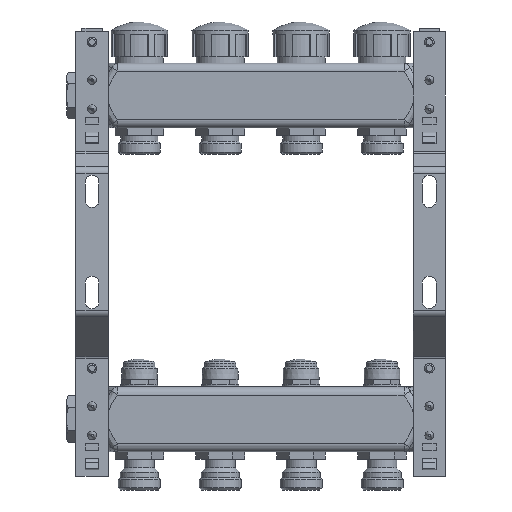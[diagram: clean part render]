
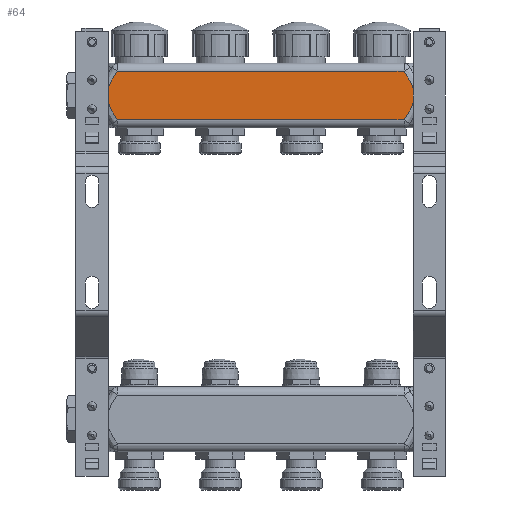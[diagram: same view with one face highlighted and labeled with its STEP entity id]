
A CAD part, front view. The second image highlights one B-rep face of the part: STEP entity #64.
In plain terms, the highlighted planar face has unit normal (0, -1, 0).
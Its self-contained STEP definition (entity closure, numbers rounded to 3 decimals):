
#64=ADVANCED_FACE('',(#1316),#1318,.T.);
#1316=FACE_BOUND('',#1317,.T.);
#1317=EDGE_LOOP('',(#10739,#10740,#10741,#10742,#10743,#10744,#10745,#10746));
#1318=PLANE('',#1319);
#1319=AXIS2_PLACEMENT_3D('',#1320,#1321,#1322);
#1320=CARTESIAN_POINT('',(1.7,19.6,-19.65));
#1321=DIRECTION('',(0.,-1.,0.));
#1322=DIRECTION('',(0.,0.,-1.));
#10739=ORIENTED_EDGE('',*,*,#15588,.F.);
#10740=ORIENTED_EDGE('',*,*,#15587,.T.);
#10741=ORIENTED_EDGE('',*,*,#15589,.T.);
#10742=ORIENTED_EDGE('',*,*,#15590,.T.);
#10743=ORIENTED_EDGE('',*,*,#15591,.T.);
#10744=ORIENTED_EDGE('',*,*,#15592,.T.);
#10745=ORIENTED_EDGE('',*,*,#15593,.F.);
#10746=ORIENTED_EDGE('',*,*,#15582,.T.);
#15582=EDGE_CURVE('',#18126,#18123,#18127,.T.);
#15587=EDGE_CURVE('',#18124,#18132,#18134,.T.);
#15588=EDGE_CURVE('',#18124,#18123,#18135,.T.);
#15589=EDGE_CURVE('',#18132,#18136,#18137,.T.);
#15590=EDGE_CURVE('',#18136,#18138,#18139,.T.);
#15591=EDGE_CURVE('',#18138,#18140,#18141,.F.);
#15592=EDGE_CURVE('',#18140,#18142,#18143,.T.);
#15593=EDGE_CURVE('',#18126,#18142,#18144,.T.);
#18123=VERTEX_POINT('',#24391);
#18124=VERTEX_POINT('',#24392);
#18126=VERTEX_POINT('',#24407);
#18127=B_SPLINE_CURVE_WITH_KNOTS('',3,
(#24408,#24409,#24410,#24411,#24412,#24413,#24414,#24415,#24416,#24417,#24418,#24419),
.UNSPECIFIED.,.F.,.F.,
(4,1,1,1,1,1,1,1,1,4),
(0.,0.148,0.281,0.388,0.488,0.582,
0.677,0.788,0.894,1.),
.UNSPECIFIED.);
#18132=VERTEX_POINT('',#24476);
#18134=B_SPLINE_CURVE_WITH_KNOTS('',3,
(#24481,#24482,#24483,#24484,#24485,#24486,#24487,#24488,#24489,#24490,#24491,#24492),
.UNSPECIFIED.,.F.,.F.,
(4,1,1,1,1,1,1,1,1,4),
(0.,0.148,0.285,0.404,0.507,0.612,
0.722,0.854,0.945,1.),
.UNSPECIFIED.);
#18135=LINE('',#24493,#24494);
#18136=VERTEX_POINT('',#24496);
#18137=LINE('',#24497,#24498);
#18138=VERTEX_POINT('',#24500);
#18139=B_SPLINE_CURVE_WITH_KNOTS('',3,
(#24501,#24502,#24503,#24504,#24505,#24506,#24507,#24508,#24509,#24510,#24511,#24512),
.UNSPECIFIED.,.F.,.F.,
(4,1,1,1,1,1,1,1,1,4),
(0.,0.148,0.281,0.388,0.488,0.582,
0.677,0.788,0.894,1.),
.UNSPECIFIED.);
#18140=VERTEX_POINT('',#24513);
#18141=LINE('',#24514,#24515);
#18142=VERTEX_POINT('',#24517);
#18143=B_SPLINE_CURVE_WITH_KNOTS('',3,
(#24518,#24519,#24520,#24521,#24522,#24523,#24524,#24525,#24526,#24527,#24528,#24529),
.UNSPECIFIED.,.F.,.F.,
(4,1,1,1,1,1,1,1,1,4),
(0.,0.148,0.285,0.404,0.507,0.612,
0.722,0.854,0.945,1.),
.UNSPECIFIED.);
#18144=LINE('',#24530,#24531);
#24391=CARTESIAN_POINT('',(20.,19.6,-35.442));
#24392=CARTESIAN_POINT('',(20.,19.6,-43.858));
#24407=CARTESIAN_POINT('',(25.634,19.6,-24.65));
#24408=CARTESIAN_POINT('',(25.634,19.6,-24.65));
#24409=CARTESIAN_POINT('',(25.276,19.6,-25.157));
#24410=CARTESIAN_POINT('',(24.609,19.6,-26.124));
#24411=CARTESIAN_POINT('',(23.733,19.6,-27.474));
#24412=CARTESIAN_POINT('',(23.003,19.6,-28.67));
#24413=CARTESIAN_POINT('',(22.391,19.6,-29.742));
#24414=CARTESIAN_POINT('',(21.837,19.6,-30.785));
#24415=CARTESIAN_POINT('',(21.305,19.6,-31.879));
#24416=CARTESIAN_POINT('',(20.804,19.6,-33.032));
#24417=CARTESIAN_POINT('',(20.354,19.6,-34.238));
#24418=CARTESIAN_POINT('',(20.109,19.6,-35.041));
#24419=CARTESIAN_POINT('',(20.,19.6,-35.442));
#24476=CARTESIAN_POINT('',(25.634,19.6,-54.65));
#24481=CARTESIAN_POINT('',(20.,19.6,-43.858));
#24482=CARTESIAN_POINT('',(20.152,19.6,-44.421));
#24483=CARTESIAN_POINT('',(20.497,19.6,-45.494));
#24484=CARTESIAN_POINT('',(21.107,19.6,-46.995));
#24485=CARTESIAN_POINT('',(21.728,19.6,-48.305));
#24486=CARTESIAN_POINT('',(22.35,19.6,-49.486));
#24487=CARTESIAN_POINT('',(22.997,19.6,-50.62));
#24488=CARTESIAN_POINT('',(23.744,19.6,-51.844));
#24489=CARTESIAN_POINT('',(24.497,19.6,-53.003));
#24490=CARTESIAN_POINT('',(25.15,19.6,-53.961));
#24491=CARTESIAN_POINT('',(25.501,19.6,-54.462));
#24492=CARTESIAN_POINT('',(25.634,19.6,-54.65));
#24493=CARTESIAN_POINT('',(20.,19.6,-43.858));
#24494=VECTOR('',#24495,1.);
#24495=DIRECTION('',(0.,0.,1.));
#24496=CARTESIAN_POINT('',(202.766,19.6,-54.65));
#24497=CARTESIAN_POINT('',(25.634,19.6,-54.65));
#24498=VECTOR('',#24499,1.);
#24499=DIRECTION('',(1.,0.,0.));
#24500=CARTESIAN_POINT('',(208.4,19.6,-43.858));
#24501=CARTESIAN_POINT('',(202.766,19.6,-54.65));
#24502=CARTESIAN_POINT('',(203.124,19.6,-54.143));
#24503=CARTESIAN_POINT('',(203.791,19.6,-53.176));
#24504=CARTESIAN_POINT('',(204.667,19.6,-51.826));
#24505=CARTESIAN_POINT('',(205.397,19.6,-50.63));
#24506=CARTESIAN_POINT('',(206.009,19.6,-49.558));
#24507=CARTESIAN_POINT('',(206.563,19.6,-48.515));
#24508=CARTESIAN_POINT('',(207.095,19.6,-47.421));
#24509=CARTESIAN_POINT('',(207.596,19.6,-46.268));
#24510=CARTESIAN_POINT('',(208.046,19.6,-45.062));
#24511=CARTESIAN_POINT('',(208.291,19.6,-44.259));
#24512=CARTESIAN_POINT('',(208.4,19.6,-43.858));
#24513=CARTESIAN_POINT('',(208.4,19.6,-35.442));
#24514=CARTESIAN_POINT('',(208.4,19.6,-35.442));
#24515=VECTOR('',#24516,1.);
#24516=DIRECTION('',(0.,0.,-1.));
#24517=CARTESIAN_POINT('',(202.766,19.6,-24.65));
#24518=CARTESIAN_POINT('',(208.4,19.6,-35.442));
#24519=CARTESIAN_POINT('',(208.248,19.6,-34.879));
#24520=CARTESIAN_POINT('',(207.903,19.6,-33.806));
#24521=CARTESIAN_POINT('',(207.293,19.6,-32.305));
#24522=CARTESIAN_POINT('',(206.672,19.6,-30.995));
#24523=CARTESIAN_POINT('',(206.05,19.6,-29.814));
#24524=CARTESIAN_POINT('',(205.403,19.6,-28.68));
#24525=CARTESIAN_POINT('',(204.656,19.6,-27.456));
#24526=CARTESIAN_POINT('',(203.903,19.6,-26.297));
#24527=CARTESIAN_POINT('',(203.25,19.6,-25.339));
#24528=CARTESIAN_POINT('',(202.899,19.6,-24.838));
#24529=CARTESIAN_POINT('',(202.766,19.6,-24.65));
#24530=CARTESIAN_POINT('',(25.634,19.6,-24.65));
#24531=VECTOR('',#24532,1.);
#24532=DIRECTION('',(1.,0.,0.));
